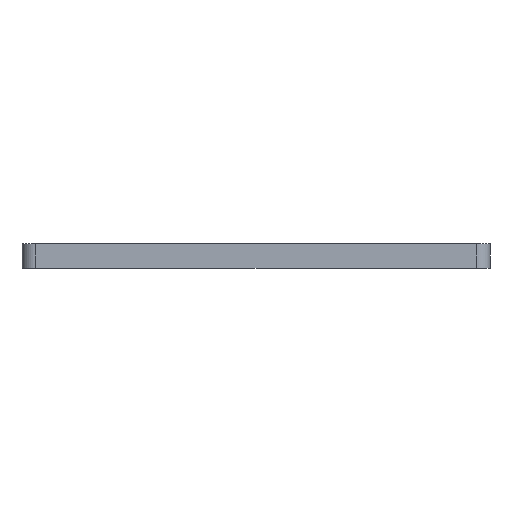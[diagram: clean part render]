
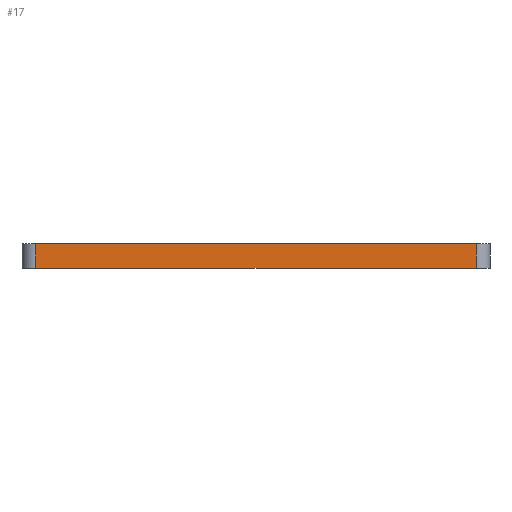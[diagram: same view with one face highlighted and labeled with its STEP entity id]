
A CAD part, front view. The second image highlights one B-rep face of the part: STEP entity #17.
In plain terms, the highlighted planar face has unit normal (0, -1, 0).
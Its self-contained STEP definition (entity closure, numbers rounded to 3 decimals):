
#17 = ADVANCED_FACE('',(#18),#32,.F.);
#18 = FACE_BOUND('',#19,.F.);
#19 = EDGE_LOOP('',(#20,#55,#83,#111));
#20 = ORIENTED_EDGE('',*,*,#21,.F.);
#21 = EDGE_CURVE('',#22,#24,#26,.T.);
#22 = VERTEX_POINT('',#23);
#23 = CARTESIAN_POINT('',(7.5,-99.9,0.));
#24 = VERTEX_POINT('',#25);
#25 = CARTESIAN_POINT('',(244.,-99.9,0.));
#26 = SURFACE_CURVE('',#27,(#31,#43),.PCURVE_S1.);
#27 = LINE('',#28,#29);
#28 = CARTESIAN_POINT('',(0.1,-99.9,0.));
#29 = VECTOR('',#30,1.);
#30 = DIRECTION('',(1.,0.,0.));
#31 = PCURVE('',#32,#37);
#32 = PLANE('',#33);
#33 = AXIS2_PLACEMENT_3D('',#34,#35,#36);
#34 = CARTESIAN_POINT('',(0.1,-99.9,0.));
#35 = DIRECTION('',(0.,1.,0.));
#36 = DIRECTION('',(1.,0.,0.));
#37 = DEFINITIONAL_REPRESENTATION('',(#38),#42);
#38 = LINE('',#39,#40);
#39 = CARTESIAN_POINT('',(0.,0.));
#40 = VECTOR('',#41,1.);
#41 = DIRECTION('',(1.,0.));
#42 = ( GEOMETRIC_REPRESENTATION_CONTEXT(2) 
PARAMETRIC_REPRESENTATION_CONTEXT() REPRESENTATION_CONTEXT('2D SPACE',''
  ) );
#43 = PCURVE('',#44,#49);
#44 = PLANE('',#45);
#45 = AXIS2_PLACEMENT_3D('',#46,#47,#48);
#46 = CARTESIAN_POINT('',(125.75,-50.,0.));
#47 = DIRECTION('',(0.,0.,1.));
#48 = DIRECTION('',(1.,0.,-0.));
#49 = DEFINITIONAL_REPRESENTATION('',(#50),#54);
#50 = LINE('',#51,#52);
#51 = CARTESIAN_POINT('',(-125.65,-49.9));
#52 = VECTOR('',#53,1.);
#53 = DIRECTION('',(1.,0.));
#54 = ( GEOMETRIC_REPRESENTATION_CONTEXT(2) 
PARAMETRIC_REPRESENTATION_CONTEXT() REPRESENTATION_CONTEXT('2D SPACE',''
  ) );
#55 = ORIENTED_EDGE('',*,*,#56,.T.);
#56 = EDGE_CURVE('',#22,#57,#59,.T.);
#57 = VERTEX_POINT('',#58);
#58 = CARTESIAN_POINT('',(7.5,-99.9,13.2));
#59 = SURFACE_CURVE('',#60,(#64,#71),.PCURVE_S1.);
#60 = LINE('',#61,#62);
#61 = CARTESIAN_POINT('',(7.5,-99.9,0.));
#62 = VECTOR('',#63,1.);
#63 = DIRECTION('',(0.,0.,1.));
#64 = PCURVE('',#32,#65);
#65 = DEFINITIONAL_REPRESENTATION('',(#66),#70);
#66 = LINE('',#67,#68);
#67 = CARTESIAN_POINT('',(7.4,0.));
#68 = VECTOR('',#69,1.);
#69 = DIRECTION('',(0.,-1.));
#70 = ( GEOMETRIC_REPRESENTATION_CONTEXT(2) 
PARAMETRIC_REPRESENTATION_CONTEXT() REPRESENTATION_CONTEXT('2D SPACE',''
  ) );
#71 = PCURVE('',#72,#77);
#72 = CYLINDRICAL_SURFACE('',#73,7.4);
#73 = AXIS2_PLACEMENT_3D('',#74,#75,#76);
#74 = CARTESIAN_POINT('',(7.5,-92.5,0.));
#75 = DIRECTION('',(0.,0.,1.));
#76 = DIRECTION('',(0.,-1.,0.));
#77 = DEFINITIONAL_REPRESENTATION('',(#78),#82);
#78 = LINE('',#79,#80);
#79 = CARTESIAN_POINT('',(-0.,0.));
#80 = VECTOR('',#81,1.);
#81 = DIRECTION('',(-0.,1.));
#82 = ( GEOMETRIC_REPRESENTATION_CONTEXT(2) 
PARAMETRIC_REPRESENTATION_CONTEXT() REPRESENTATION_CONTEXT('2D SPACE',''
  ) );
#83 = ORIENTED_EDGE('',*,*,#84,.T.);
#84 = EDGE_CURVE('',#57,#85,#87,.T.);
#85 = VERTEX_POINT('',#86);
#86 = CARTESIAN_POINT('',(244.,-99.9,13.2));
#87 = SURFACE_CURVE('',#88,(#92,#99),.PCURVE_S1.);
#88 = LINE('',#89,#90);
#89 = CARTESIAN_POINT('',(0.1,-99.9,13.2));
#90 = VECTOR('',#91,1.);
#91 = DIRECTION('',(1.,0.,0.));
#92 = PCURVE('',#32,#93);
#93 = DEFINITIONAL_REPRESENTATION('',(#94),#98);
#94 = LINE('',#95,#96);
#95 = CARTESIAN_POINT('',(0.,-13.2));
#96 = VECTOR('',#97,1.);
#97 = DIRECTION('',(1.,0.));
#98 = ( GEOMETRIC_REPRESENTATION_CONTEXT(2) 
PARAMETRIC_REPRESENTATION_CONTEXT() REPRESENTATION_CONTEXT('2D SPACE',''
  ) );
#99 = PCURVE('',#100,#105);
#100 = PLANE('',#101);
#101 = AXIS2_PLACEMENT_3D('',#102,#103,#104);
#102 = CARTESIAN_POINT('',(125.75,-50.,13.2));
#103 = DIRECTION('',(0.,0.,1.));
#104 = DIRECTION('',(1.,0.,-0.));
#105 = DEFINITIONAL_REPRESENTATION('',(#106),#110);
#106 = LINE('',#107,#108);
#107 = CARTESIAN_POINT('',(-125.65,-49.9));
#108 = VECTOR('',#109,1.);
#109 = DIRECTION('',(1.,0.));
#110 = ( GEOMETRIC_REPRESENTATION_CONTEXT(2) 
PARAMETRIC_REPRESENTATION_CONTEXT() REPRESENTATION_CONTEXT('2D SPACE',''
  ) );
#111 = ORIENTED_EDGE('',*,*,#112,.F.);
#112 = EDGE_CURVE('',#24,#85,#113,.T.);
#113 = SURFACE_CURVE('',#114,(#118,#125),.PCURVE_S1.);
#114 = LINE('',#115,#116);
#115 = CARTESIAN_POINT('',(244.,-99.9,0.));
#116 = VECTOR('',#117,1.);
#117 = DIRECTION('',(0.,0.,1.));
#118 = PCURVE('',#32,#119);
#119 = DEFINITIONAL_REPRESENTATION('',(#120),#124);
#120 = LINE('',#121,#122);
#121 = CARTESIAN_POINT('',(243.9,0.));
#122 = VECTOR('',#123,1.);
#123 = DIRECTION('',(0.,-1.));
#124 = ( GEOMETRIC_REPRESENTATION_CONTEXT(2) 
PARAMETRIC_REPRESENTATION_CONTEXT() REPRESENTATION_CONTEXT('2D SPACE',''
  ) );
#125 = PCURVE('',#126,#131);
#126 = CYLINDRICAL_SURFACE('',#127,7.4);
#127 = AXIS2_PLACEMENT_3D('',#128,#129,#130);
#128 = CARTESIAN_POINT('',(244.,-92.5,0.));
#129 = DIRECTION('',(0.,0.,1.));
#130 = DIRECTION('',(0.,-1.,0.));
#131 = DEFINITIONAL_REPRESENTATION('',(#132),#136);
#132 = LINE('',#133,#134);
#133 = CARTESIAN_POINT('',(0.,0.));
#134 = VECTOR('',#135,1.);
#135 = DIRECTION('',(0.,1.));
#136 = ( GEOMETRIC_REPRESENTATION_CONTEXT(2) 
PARAMETRIC_REPRESENTATION_CONTEXT() REPRESENTATION_CONTEXT('2D SPACE',''
  ) );
